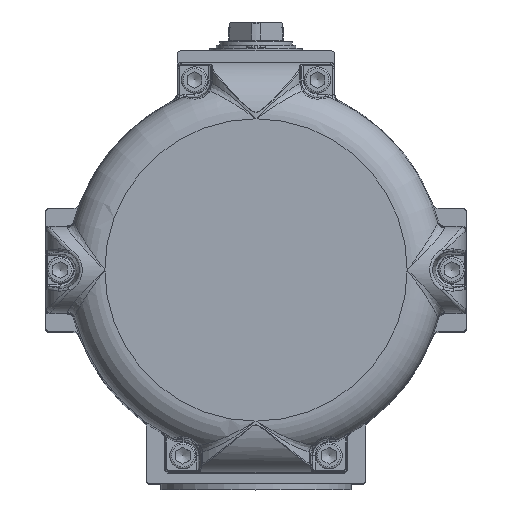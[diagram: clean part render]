
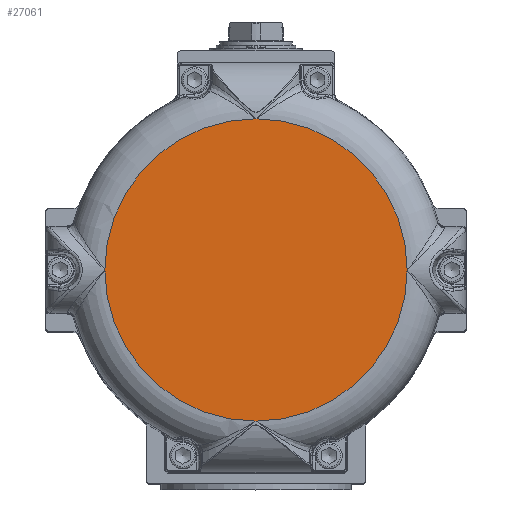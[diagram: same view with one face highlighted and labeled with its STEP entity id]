
A CAD part, top view. The second image highlights one B-rep face of the part: STEP entity #27061.
In plain terms, the highlighted planar face has unit normal (0, 0, 1).
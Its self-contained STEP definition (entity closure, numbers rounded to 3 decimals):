
#1346=PLANE('',#29318);
#2306=FACE_OUTER_BOUND('',#3854,.T.);
#3854=EDGE_LOOP('',(#20512,#20513,#20514,#20515));
#5438=CIRCLE('',#29316,103.409);
#5440=CIRCLE('',#29319,103.409);
#5441=CIRCLE('',#29320,103.409);
#5442=CIRCLE('',#29321,103.409);
#11088=VERTEX_POINT('',#50865);
#11089=VERTEX_POINT('',#50885);
#11092=VERTEX_POINT('',#51001);
#11093=VERTEX_POINT('',#51003);
#14396=EDGE_CURVE('',#11089,#11088,#5438,.T.);
#14401=EDGE_CURVE('',#11088,#11092,#5440,.T.);
#14402=EDGE_CURVE('',#11092,#11093,#5441,.T.);
#14403=EDGE_CURVE('',#11093,#11089,#5442,.T.);
#20512=ORIENTED_EDGE('',*,*,#14396,.T.);
#20513=ORIENTED_EDGE('',*,*,#14401,.T.);
#20514=ORIENTED_EDGE('',*,*,#14402,.T.);
#20515=ORIENTED_EDGE('',*,*,#14403,.T.);
#27061=ADVANCED_FACE('',(#2306),#1346,.T.);
#29316=AXIS2_PLACEMENT_3D('',#50886,#33827,#33828);
#29318=AXIS2_PLACEMENT_3D('',#51000,#33831,#33832);
#29319=AXIS2_PLACEMENT_3D('',#51002,#33833,#33834);
#29320=AXIS2_PLACEMENT_3D('',#51004,#33835,#33836);
#29321=AXIS2_PLACEMENT_3D('',#51005,#33837,#33838);
#33827=DIRECTION('center_axis',(0.,0.,
1.));
#33828=DIRECTION('ref_axis',(-1.,0.,0.));
#33831=DIRECTION('center_axis',(0.,0.,
1.));
#33832=DIRECTION('ref_axis',(0.,-1.,0.));
#33833=DIRECTION('center_axis',(0.,0.,
1.));
#33834=DIRECTION('ref_axis',(-1.,0.,0.));
#33835=DIRECTION('center_axis',(0.,0.,
1.));
#33836=DIRECTION('ref_axis',(-1.,0.,0.));
#33837=DIRECTION('center_axis',(0.,0.,
1.));
#33838=DIRECTION('ref_axis',(-1.,0.,0.));
#50865=CARTESIAN_POINT('',(0.,103.409,226.5));
#50885=CARTESIAN_POINT('',(103.409,0.,226.5));
#50886=CARTESIAN_POINT('Origin',(0.,0.,
226.5));
#51000=CARTESIAN_POINT('Origin',(-51.704,0.,
226.5));
#51001=CARTESIAN_POINT('',(-103.409,0.,226.5));
#51002=CARTESIAN_POINT('Origin',(0.,0.,
226.5));
#51003=CARTESIAN_POINT('',(0.,-103.409,226.5));
#51004=CARTESIAN_POINT('Origin',(0.,0.,
226.5));
#51005=CARTESIAN_POINT('Origin',(0.,0.,
226.5));
